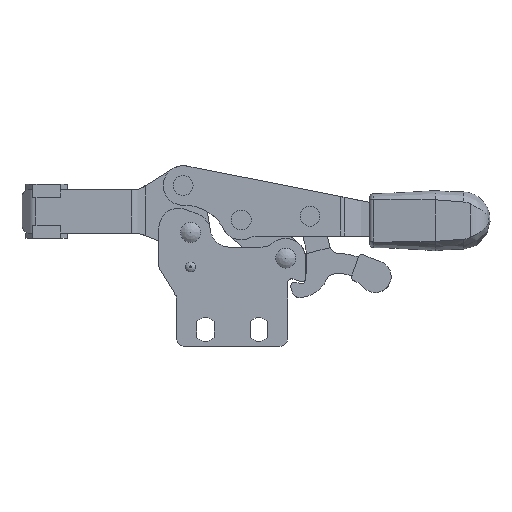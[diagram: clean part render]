
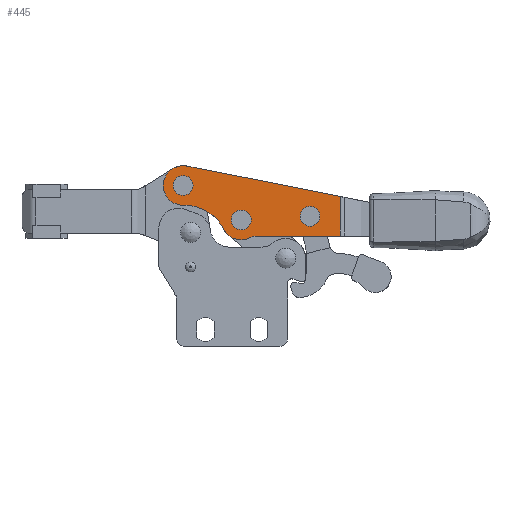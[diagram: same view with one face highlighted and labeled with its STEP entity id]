
A CAD part, top view. The second image highlights one B-rep face of the part: STEP entity #445.
In plain terms, the highlighted planar face has unit normal (0, 0, 1).
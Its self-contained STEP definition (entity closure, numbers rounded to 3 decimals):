
#445 = ADVANCED_FACE( '', ( #839, #840, #841, #842 ), #843, .T. );
#839 = FACE_OUTER_BOUND( '', #1527, .T. );
#840 = FACE_BOUND( '', #1528, .T. );
#841 = FACE_BOUND( '', #1529, .T. );
#842 = FACE_BOUND( '', #1530, .T. );
#843 = PLANE( '', #1531 );
#1527 = EDGE_LOOP( '', ( #2764, #2765, #2766, #2767, #2768, #2769, #2770 ) );
#1528 = EDGE_LOOP( '', ( #2771 ) );
#1529 = EDGE_LOOP( '', ( #2772 ) );
#1530 = EDGE_LOOP( '', ( #2773 ) );
#1531 = AXIS2_PLACEMENT_3D( '', #2774, #2775, #2776 );
#2764 = ORIENTED_EDGE( '', *, *, #4042, .F. );
#2765 = ORIENTED_EDGE( '', *, *, #4043, .T. );
#2766 = ORIENTED_EDGE( '', *, *, #4044, .T. );
#2767 = ORIENTED_EDGE( '', *, *, #4045, .F. );
#2768 = ORIENTED_EDGE( '', *, *, #4046, .T. );
#2769 = ORIENTED_EDGE( '', *, *, #4047, .F. );
#2770 = ORIENTED_EDGE( '', *, *, #4048, .T. );
#2771 = ORIENTED_EDGE( '', *, *, #4049, .F. );
#2772 = ORIENTED_EDGE( '', *, *, #4050, .F. );
#2773 = ORIENTED_EDGE( '', *, *, #4051, .F. );
#2774 = CARTESIAN_POINT( '', ( -1.876, 11.842, 4. ) );
#2775 = DIRECTION( '', ( 0., 0., 1. ) );
#2776 = DIRECTION( '', ( 1., 0., 0. ) );
#4042 = EDGE_CURVE( '', #4848, #4849, #4850, .F. );
#4043 = EDGE_CURVE( '', #4848, #4851, #4852, .T. );
#4044 = EDGE_CURVE( '', #4851, #4853, #4854, .T. );
#4045 = EDGE_CURVE( '', #4855, #4853, #4856, .T. );
#4046 = EDGE_CURVE( '', #4855, #4857, #4858, .T. );
#4047 = EDGE_CURVE( '', #4859, #4857, #4860, .T. );
#4048 = EDGE_CURVE( '', #4859, #4849, #4861, .T. );
#4049 = EDGE_CURVE( '', #4862, #4862, #4863, .T. );
#4050 = EDGE_CURVE( '', #4864, #4864, #4865, .T. );
#4051 = EDGE_CURVE( '', #4866, #4866, #4867, .T. );
#4848 = VERTEX_POINT( '', #6084 );
#4849 = VERTEX_POINT( '', #6085 );
#4850 = LINE( '', #6086, #6087 );
#4851 = VERTEX_POINT( '', #6088 );
#4852 = LINE( '', #6089, #6090 );
#4853 = VERTEX_POINT( '', #6091 );
#4854 = CIRCLE( '', #6092, 5. );
#4855 = VERTEX_POINT( '', #6093 );
#4856 = CIRCLE( '', #6094, 11. );
#4857 = VERTEX_POINT( '', #6095 );
#4858 = CIRCLE( '', #6096, 5. );
#4859 = VERTEX_POINT( '', #6097 );
#4860 = CIRCLE( '', #6098, 5. );
#4861 = LINE( '', #6099, #6100 );
#4862 = VERTEX_POINT( '', #6101 );
#4863 = CIRCLE( '', #6102, 2.5 );
#4864 = VERTEX_POINT( '', #6103 );
#4865 = CIRCLE( '', #6104, 2.5 );
#4866 = VERTEX_POINT( '', #6105 );
#4867 = CIRCLE( '', #6106, 2.5 );
#6084 = CARTESIAN_POINT( '', ( 37.744, 9.056, 4. ) );
#6085 = CARTESIAN_POINT( '', ( 37.745, -0.914, 4. ) );
#6086 = CARTESIAN_POINT( '', ( 37.747, -20.914, 4. ) );
#6087 = VECTOR( '', #7418, 1000. );
#6088 = CARTESIAN_POINT( '', ( -0.9, 16.746, 4. ) );
#6089 = CARTESIAN_POINT( '', ( 45.125, 7.587, 4. ) );
#6090 = VECTOR( '', #7419, 1000. );
#6091 = CARTESIAN_POINT( '', ( -1.742, 6.844, 4. ) );
#6092 = AXIS2_PLACEMENT_3D( '', #7420, #7421, #7422 );
#6093 = CARTESIAN_POINT( '', ( 8.337, 0.873, 4. ) );
#6094 = AXIS2_PLACEMENT_3D( '', #7423, #7424, #7425 );
#6095 = CARTESIAN_POINT( '', ( 14.887, -1.379, 4. ) );
#6096 = AXIS2_PLACEMENT_3D( '', #7426, #7427, #7428 );
#6097 = CARTESIAN_POINT( '', ( 16.99, -0.916, 4. ) );
#6098 = AXIS2_PLACEMENT_3D( '', #7429, #7430, #7431 );
#6099 = CARTESIAN_POINT( '', ( 16.99, -0.916, 4. ) );
#6100 = VECTOR( '', #7432, 1000. );
#6101 = CARTESIAN_POINT( '', ( 0.624, 11.842, 4. ) );
#6102 = AXIS2_PLACEMENT_3D( '', #7433, #7434, #7435 );
#6103 = CARTESIAN_POINT( '', ( 15.285, 3.157, 4. ) );
#6104 = AXIS2_PLACEMENT_3D( '', #7436, #7437, #7438 );
#6105 = CARTESIAN_POINT( '', ( 32.625, 4.085, 4. ) );
#6106 = AXIS2_PLACEMENT_3D( '', #7439, #7440, #7441 );
#7418 = DIRECTION( '', ( 0., 1., 0. ) );
#7419 = DIRECTION( '', ( -0.981, 0.195, 0. ) );
#7420 = CARTESIAN_POINT( '', ( -1.876, 11.842, 4. ) );
#7421 = DIRECTION( '', ( 0., 0., 1. ) );
#7422 = DIRECTION( '', ( 1., 0., 0. ) );
#7423 = CARTESIAN_POINT( '', ( -1.448, -4.152, 4. ) );
#7424 = DIRECTION( '', ( 0., 0., 1. ) );
#7425 = DIRECTION( '', ( 1., 0., 0. ) );
#7426 = CARTESIAN_POINT( '', ( 12.785, 3.157, 4. ) );
#7427 = DIRECTION( '', ( 0., 0., 1. ) );
#7428 = DIRECTION( '', ( 1., 0., 0. ) );
#7429 = CARTESIAN_POINT( '', ( 16.99, -5.916, 4. ) );
#7430 = DIRECTION( '', ( 0., 0., 1. ) );
#7431 = DIRECTION( '', ( 1., 0., 0. ) );
#7432 = DIRECTION( '', ( 1., 0., 0. ) );
#7433 = CARTESIAN_POINT( '', ( -1.876, 11.842, 4. ) );
#7434 = DIRECTION( '', ( 0., 0., 1. ) );
#7435 = DIRECTION( '', ( 1., 0., 0. ) );
#7436 = CARTESIAN_POINT( '', ( 12.785, 3.157, 4. ) );
#7437 = DIRECTION( '', ( 0., 0., 1. ) );
#7438 = DIRECTION( '', ( 1., 0., 0. ) );
#7439 = CARTESIAN_POINT( '', ( 30.125, 4.085, 4. ) );
#7440 = DIRECTION( '', ( 0., 0., 1. ) );
#7441 = DIRECTION( '', ( 1., 0., 0. ) );
